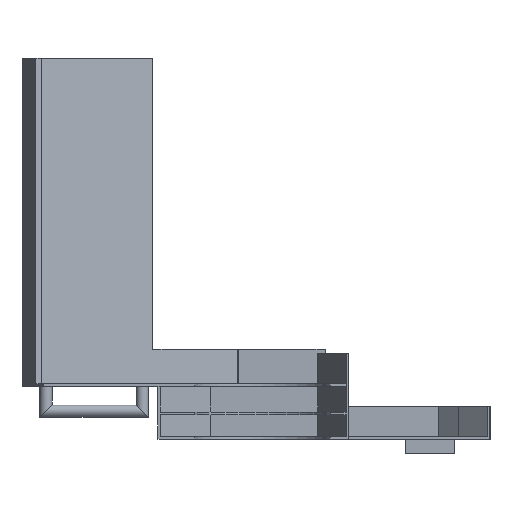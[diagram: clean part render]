
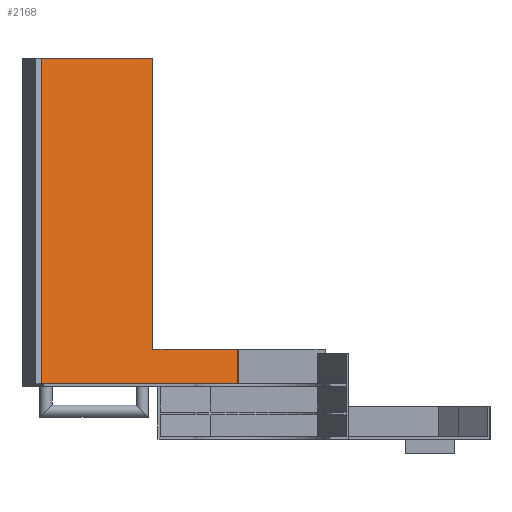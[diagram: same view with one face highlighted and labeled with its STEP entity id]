
A CAD part, front view. The second image highlights one B-rep face of the part: STEP entity #2168.
In plain terms, the highlighted planar face has unit normal (0.259, -0.966, 0).
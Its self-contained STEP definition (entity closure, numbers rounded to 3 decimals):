
#88 = VECTOR ( 'NONE', #2450, 1000. ) ;
#97 = LINE ( 'NONE', #714, #2510 ) ;
#100 = VERTEX_POINT ( 'NONE', #3192 ) ;
#107 = ORIENTED_EDGE ( 'NONE', *, *, #919, .T. ) ;
#189 = EDGE_CURVE ( 'NONE', #100, #743, #97, .T. ) ;
#521 = LINE ( 'NONE', #1645, #88 ) ;
#543 = CARTESIAN_POINT ( 'NONE',  ( -158.891, -47.677, 267. ) ) ;
#590 = VERTEX_POINT ( 'NONE', #3372 ) ;
#649 = CARTESIAN_POINT ( 'NONE',  ( -61.471, -21.574, 30. ) ) ;
#691 = DIRECTION ( 'NONE',  ( -0.966, -0.259, 0. ) ) ;
#714 = CARTESIAN_POINT ( 'NONE',  ( -158.891, -47.677, 0. ) ) ;
#743 = VERTEX_POINT ( 'NONE', #543 ) ;
#868 = DIRECTION ( 'NONE',  ( 0., 0., -1. ) ) ;
#919 = EDGE_CURVE ( 'NONE', #590, #3011, #2894, .T. ) ;
#932 = CARTESIAN_POINT ( 'NONE',  ( 19.3, 0.069, 30. ) ) ;
#1045 = EDGE_CURVE ( 'NONE', #2555, #743, #521, .T. ) ;
#1134 = VECTOR ( 'NONE', #868, 1000. ) ;
#1169 = CARTESIAN_POINT ( 'NONE',  ( -61.471, -21.574, 0. ) ) ;
#1316 = ORIENTED_EDGE ( 'NONE', *, *, #1654, .F. ) ;
#1431 = LINE ( 'NONE', #2863, #1134 ) ;
#1440 = VECTOR ( 'NONE', #1906, 1000. ) ;
#1516 = PLANE ( 'NONE',  #1587 ) ;
#1517 = CARTESIAN_POINT ( 'NONE',  ( 7.593, -3.068, 2. ) ) ;
#1555 = DIRECTION ( 'NONE',  ( 0., 0., 1. ) ) ;
#1587 = AXIS2_PLACEMENT_3D ( 'NONE', #1818, #2695, #2931 ) ;
#1645 = CARTESIAN_POINT ( 'NONE',  ( 19.3, 0.069, 267. ) ) ;
#1654 = EDGE_CURVE ( 'NONE', #590, #3542, #1431, .T. ) ;
#1818 = CARTESIAN_POINT ( 'NONE',  ( 19.3, 0.069, 0. ) ) ;
#1906 = DIRECTION ( 'NONE',  ( 0.966, 0.259, 0. ) ) ;
#2096 = FACE_OUTER_BOUND ( 'NONE', #3545, .T. ) ;
#2168 = ADVANCED_FACE ( 'NONE', ( #2096 ), #1516, .F. ) ;
#2185 = CARTESIAN_POINT ( 'NONE',  ( 19.3, 0.069, 2. ) ) ;
#2450 = DIRECTION ( 'NONE',  ( -0.966, -0.259, 0. ) ) ;
#2510 = VECTOR ( 'NONE', #1555, 1000. ) ;
#2514 = ORIENTED_EDGE ( 'NONE', *, *, #1045, .T. ) ;
#2555 = VERTEX_POINT ( 'NONE', #3097 ) ;
#2570 = ORIENTED_EDGE ( 'NONE', *, *, #189, .F. ) ;
#2695 = DIRECTION ( 'NONE',  ( -0.259, 0.966, 0. ) ) ;
#2841 = EDGE_CURVE ( 'NONE', #100, #3542, #2978, .T. ) ;
#2863 = CARTESIAN_POINT ( 'NONE',  ( 7.593, -3.068, 267. ) ) ;
#2894 = LINE ( 'NONE', #932, #3161 ) ;
#2896 = LINE ( 'NONE', #1169, #3512 ) ;
#2903 = ORIENTED_EDGE ( 'NONE', *, *, #3313, .T. ) ;
#2931 = DIRECTION ( 'NONE',  ( -0.966, -0.259, 0. ) ) ;
#2978 = LINE ( 'NONE', #2185, #1440 ) ;
#2996 = ORIENTED_EDGE ( 'NONE', *, *, #2841, .T. ) ;
#3011 = VERTEX_POINT ( 'NONE', #649 ) ;
#3097 = CARTESIAN_POINT ( 'NONE',  ( -61.471, -21.574, 267. ) ) ;
#3152 = DIRECTION ( 'NONE',  ( 0., 0., 1. ) ) ;
#3161 = VECTOR ( 'NONE', #691, 1000. ) ;
#3192 = CARTESIAN_POINT ( 'NONE',  ( -158.891, -47.677, 2. ) ) ;
#3313 = EDGE_CURVE ( 'NONE', #3011, #2555, #2896, .T. ) ;
#3372 = CARTESIAN_POINT ( 'NONE',  ( 7.593, -3.068, 30. ) ) ;
#3512 = VECTOR ( 'NONE', #3152, 1000. ) ;
#3542 = VERTEX_POINT ( 'NONE', #1517 ) ;
#3545 = EDGE_LOOP ( 'NONE', ( #2570, #2996, #1316, #107, #2903, #2514 ) ) ;
